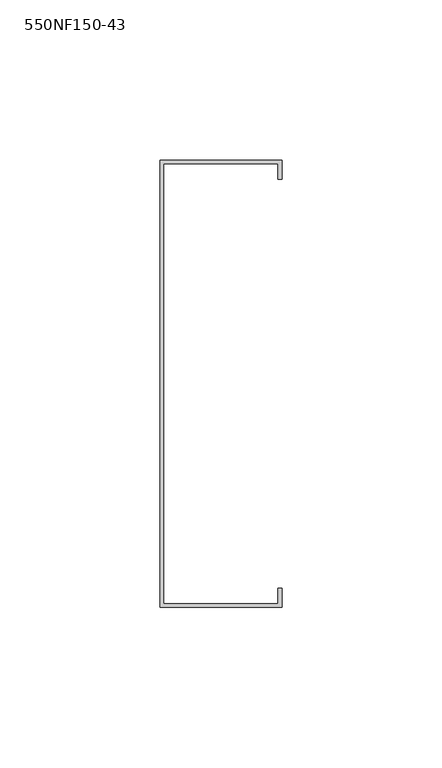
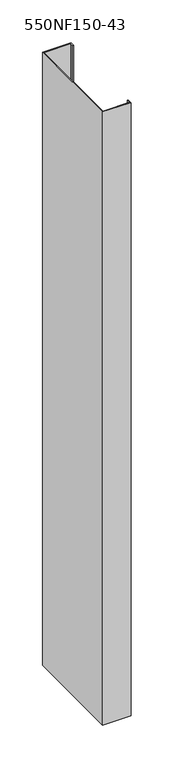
"""IFC4 building model written with IfcOpenShell, lengths in millimetres: column geometry, BIMSF-SSMA-S-Column : 550NF150-43."""

from ifc_helpers import new_model, si_unit, frame, origin, place, context, project, spatial, polyline, outline, extrude, source, transform, mapped, element, save


def column_550nf150_43_5652886b(model_context):
    return source(origin(), model_context, "Body", "SweptSolid", [
        extrude(outline(polyline([(-11.9977877, -80.5871249), (-11.9977877, 59.1128751), (26.1022123, 59.1128751), (26.1022123, 53.1879908), (24.952528, 53.1879908), (24.952528, 57.9631908), (-10.8481035, 57.9631908), (-10.8481035, -79.4374407), (24.952528, -79.4374407), (24.952528, -74.6622407), (26.1022123, -74.6622407), (26.1022123, -80.5871249), (-11.9977877, -80.5871249)])), frame((0.0, 0.0, 5525.3929688), z_axis=(0.0, 0.0, 1.0), x_axis=(1.0, 0.0, 0.0)), (0.0, 0.0, 1.0), 871.1729992),
    ])


if __name__ == "__main__":
    model = new_model("IFC4")
    model_context = context("Model", 3, world=origin())
    ifc_project = project(units=[si_unit("LENGTHUNIT", "METRE", prefix="MILLI")], contexts=[model_context])
    site = spatial("IfcSite", under=ifc_project)
    building = spatial("IfcBuilding", under=site)
    placement = place(None, origin())
    column_550nf150_43_shape = column_550nf150_43_5652886b(model_context)
    element("IfcColumn", 1, ObjectType="BIMSF-SSMA-S-Column : 550NF150-43", at=placement, inside=building, context=model_context, shape_type="MappedRepresentation", body=[
        mapped(column_550nf150_43_shape, transform((0.0, 0.0, 0.0), x_axis=(1.0, 0.0, 0.0), y_axis=(0.0, 1.0, 0.0), z_axis=(0.0, 0.0, 1.0))),
    ])
    save(model, "model.ifc")
